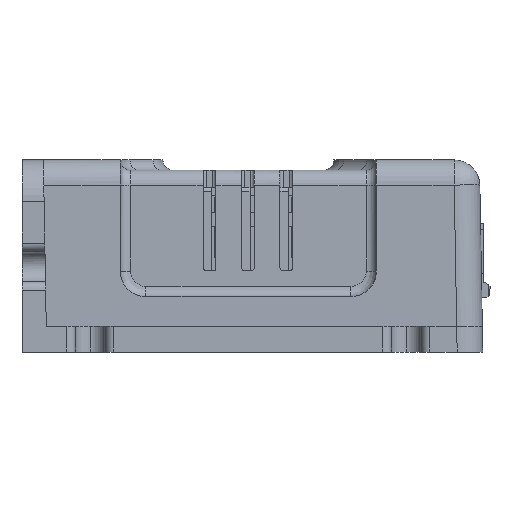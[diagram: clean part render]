
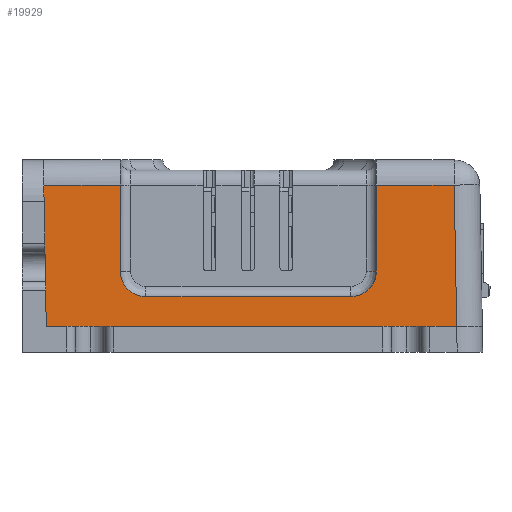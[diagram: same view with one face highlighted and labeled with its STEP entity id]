
A CAD part, left-side view. The second image highlights one B-rep face of the part: STEP entity #19929.
In plain terms, the highlighted planar face has unit normal (-1, 0, 0.018).
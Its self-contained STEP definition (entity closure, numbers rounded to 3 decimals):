
#284 = ORIENTED_EDGE ( 'NONE', *, *, #66185, .F. ) ;
#701 = ORIENTED_EDGE ( 'NONE', *, *, #20646, .F. ) ;
#1108 = CARTESIAN_POINT ( 'NONE',  ( -206.145, -10.489, 3.379 ) ) ;
#1318 = EDGE_CURVE ( 'NONE', #23201, #55954, #53506, .T. ) ;
#2204 = ORIENTED_EDGE ( 'NONE', *, *, #1318, .T. ) ;
#2633 = VECTOR ( 'NONE', #47959, 1000. ) ;
#2653 = LINE ( 'NONE', #34172, #17158 ) ;
#3692 = ORIENTED_EDGE ( 'NONE', *, *, #50390, .T. ) ;
#6641 = CARTESIAN_POINT ( 'NONE',  ( -206.152, -11.607, 3. ) ) ;
#6751 = LINE ( 'NONE', #24592, #48463 ) ;
#8805 = DIRECTION ( 'NONE',  ( -0.017, -0.017, -1. ) ) ;
#9026 = VERTEX_POINT ( 'NONE', #37725 ) ;
#9048 = CARTESIAN_POINT ( 'NONE',  ( -206.213, 0., -0.5 ) ) ;
#9690 = VERTEX_POINT ( 'NONE', #12531 ) ;
#9851 = CARTESIAN_POINT ( 'NONE',  ( -205.924, -25.7, 16.052 ) ) ;
#9995 = VECTOR ( 'NONE', #8805, 1000. ) ;
#10367 = CARTESIAN_POINT ( 'NONE',  ( -205.924, -25.7, 16.052 ) ) ;
#11389 = CARTESIAN_POINT ( 'NONE',  ( -205.924, -0.051, 16.052 ) ) ;
#11480 = LINE ( 'NONE', #10367, #38743 ) ;
#11560 = ORIENTED_EDGE ( 'NONE', *, *, #41132, .F. ) ;
#11878 = CARTESIAN_POINT ( 'NONE',  ( -206.107, -9., 5.607 ) ) ;
#12531 = CARTESIAN_POINT ( 'NONE',  ( -205.924, -9., 16.052 ) ) ;
#13424 = CARTESIAN_POINT ( 'NONE',  ( -206.151, -36.785, 3.078 ) ) ;
#15597 = CARTESIAN_POINT ( 'NONE',  ( -206.213, -25.7, -0.5 ) ) ;
#15839 = DIRECTION ( 'NONE',  ( 0., -1., 0. ) ) ;
#16399 = ORIENTED_EDGE ( 'NONE', *, *, #49588, .F. ) ;
#16448 = DIRECTION ( 'NONE',  ( 0.017, 0., 1. ) ) ;
#17158 = VECTOR ( 'NONE', #61410, 1000. ) ;
#18886 = CARTESIAN_POINT ( 'NONE',  ( -206.142, -37.844, 3.601 ) ) ;
#18983 = CARTESIAN_POINT ( 'NONE',  ( -206.213, -0.34, -0.5 ) ) ;
#19929 = ADVANCED_FACE ( 'NONE', ( #27631 ), #59227, .F. ) ;
#19953 = EDGE_CURVE ( 'NONE', #63760, #26962, #11480, .T. ) ;
#20646 = EDGE_CURVE ( 'NONE', #22459, #63760, #54999, .T. ) ;
#22136 = CARTESIAN_POINT ( 'NONE',  ( -205.924, -39., 16.052 ) ) ;
#22459 = VERTEX_POINT ( 'NONE', #63964 ) ;
#23201 = VERTEX_POINT ( 'NONE', #11389 ) ;
#24104 = EDGE_CURVE ( 'NONE', #9690, #25331, #6751, .T. ) ;
#24368 = CARTESIAN_POINT ( 'NONE',  ( -206.126, -38.621, 4.489 ) ) ;
#24592 = CARTESIAN_POINT ( 'NONE',  ( -206.213, -9., -0.5 ) ) ;
#25331 = VERTEX_POINT ( 'NONE', #27522 ) ;
#25463 = VECTOR ( 'NONE', #37331, 1000. ) ;
#26533 = DIRECTION ( 'NONE',  ( 1., 0., -0.017 ) ) ;
#26962 = VERTEX_POINT ( 'NONE', #31351 ) ;
#27522 = CARTESIAN_POINT ( 'NONE',  ( -206.1, -9., 6. ) ) ;
#27631 = FACE_OUTER_BOUND ( 'NONE', #57505, .T. ) ;
#27653 = ORIENTED_EDGE ( 'NONE', *, *, #34027, .F. ) ;
#28244 = CARTESIAN_POINT ( 'NONE',  ( -206.126, -9.378, 4.49 ) ) ;
#29784 = CARTESIAN_POINT ( 'NONE',  ( -206.107, -39., 5.607 ) ) ;
#29860 = LINE ( 'NONE', #9851, #2633 ) ;
#29997 = VERTEX_POINT ( 'NONE', #40460 ) ;
#31351 = CARTESIAN_POINT ( 'NONE',  ( -205.924, -48.112, 16.052 ) ) ;
#32796 = CARTESIAN_POINT ( 'NONE',  ( -206.147, -36., 3. ) ) ;
#33746 = CARTESIAN_POINT ( 'NONE',  ( -206.142, -10.156, 3.601 ) ) ;
#34027 = EDGE_CURVE ( 'NONE', #23201, #9690, #29860, .T. ) ;
#34172 = CARTESIAN_POINT ( 'NONE',  ( -206.152, -12., 3. ) ) ;
#35181 = EDGE_CURVE ( 'NONE', #26962, #29997, #54522, .T. ) ;
#35341 = AXIS2_PLACEMENT_3D ( 'NONE', #15597, #26533, #64759 ) ;
#37331 = DIRECTION ( 'NONE',  ( -0.017, -0.017, -1. ) ) ;
#37725 = CARTESIAN_POINT ( 'NONE',  ( -206.147, -12., 3. ) ) ;
#38743 = VECTOR ( 'NONE', #15839, 1000. ) ;
#38753 = VECTOR ( 'NONE', #16448, 1000. ) ;
#39239 = CARTESIAN_POINT ( 'NONE',  ( -206.151, -11.215, 3.078 ) ) ;
#40060 = B_SPLINE_CURVE_WITH_KNOTS ( 'NONE', 3,
 ( #40320, #62084, #13424, #51555, #18886, #57062, #24368, #62550, #29784, #68051 ),
 .UNSPECIFIED., .F., .F.,
 ( 4, 2, 2, 2, 4 ),
 ( 0., 0.001, 0.002, 0.004, 0.005 ),
 .UNSPECIFIED. ) ;
#40320 = CARTESIAN_POINT ( 'NONE',  ( -206.147, -36., 3. ) ) ;
#40460 = CARTESIAN_POINT ( 'NONE',  ( -206.213, -48.4, -0.5 ) ) ;
#41008 = DIRECTION ( 'NONE',  ( -0.017, 0., -1. ) ) ;
#41132 = EDGE_CURVE ( 'NONE', #45707, #22459, #40060, .T. ) ;
#44711 = CARTESIAN_POINT ( 'NONE',  ( -206.147, -12., 3. ) ) ;
#45707 = VERTEX_POINT ( 'NONE', #32796 ) ;
#47146 = DIRECTION ( 'NONE',  ( 0., -1., 0. ) ) ;
#47959 = DIRECTION ( 'NONE',  ( 0., -1., 0. ) ) ;
#48463 = VECTOR ( 'NONE', #41008, 1000. ) ;
#49588 = EDGE_CURVE ( 'NONE', #9026, #45707, #2653, .T. ) ;
#49872 = ORIENTED_EDGE ( 'NONE', *, *, #35181, .F. ) ;
#50390 = EDGE_CURVE ( 'NONE', #55954, #29997, #65725, .T. ) ;
#51555 = CARTESIAN_POINT ( 'NONE',  ( -206.145, -37.511, 3.379 ) ) ;
#52892 = VECTOR ( 'NONE', #47146, 1000. ) ;
#53506 = LINE ( 'NONE', #68462, #9995 ) ;
#53820 = CARTESIAN_POINT ( 'NONE',  ( -205.924, -48.112, 16.052 ) ) ;
#54522 = LINE ( 'NONE', #53820, #25463 ) ;
#54999 = LINE ( 'NONE', #65375, #38753 ) ;
#55491 = CARTESIAN_POINT ( 'NONE',  ( -206.1, -9., 6. ) ) ;
#55954 = VERTEX_POINT ( 'NONE', #18983 ) ;
#57062 = CARTESIAN_POINT ( 'NONE',  ( -206.132, -38.399, 4.156 ) ) ;
#57505 = EDGE_LOOP ( 'NONE', ( #16399, #284, #70200, #27653, #2204, #3692, #49872, #58717, #701, #11560 ) ) ;
#58717 = ORIENTED_EDGE ( 'NONE', *, *, #19953, .F. ) ;
#59227 = PLANE ( 'NONE',  #35341 ) ;
#60982 = CARTESIAN_POINT ( 'NONE',  ( -206.113, -9.078, 5.215 ) ) ;
#61028 = B_SPLINE_CURVE_WITH_KNOTS ( 'NONE', 3,
 ( #55491, #11878, #60982, #28244, #66501, #33746, #1108, #39239, #6641, #44711 ),
 .UNSPECIFIED., .F., .F.,
 ( 4, 2, 2, 2, 4 ),
 ( 0., 0.001, 0.002, 0.004, 0.005 ),
 .UNSPECIFIED. ) ;
#61410 = DIRECTION ( 'NONE',  ( 0., -1., 0. ) ) ;
#62084 = CARTESIAN_POINT ( 'NONE',  ( -206.152, -36.393, 3. ) ) ;
#62550 = CARTESIAN_POINT ( 'NONE',  ( -206.113, -38.922, 5.215 ) ) ;
#63760 = VERTEX_POINT ( 'NONE', #22136 ) ;
#63964 = CARTESIAN_POINT ( 'NONE',  ( -206.1, -39., 6. ) ) ;
#64759 = DIRECTION ( 'NONE',  ( -0.017, 0., -1. ) ) ;
#65375 = CARTESIAN_POINT ( 'NONE',  ( -206.213, -39., -0.5 ) ) ;
#65725 = LINE ( 'NONE', #9048, #52892 ) ;
#66185 = EDGE_CURVE ( 'NONE', #25331, #9026, #61028, .T. ) ;
#66501 = CARTESIAN_POINT ( 'NONE',  ( -206.132, -9.601, 4.157 ) ) ;
#68051 = CARTESIAN_POINT ( 'NONE',  ( -206.1, -39., 6. ) ) ;
#68462 = CARTESIAN_POINT ( 'NONE',  ( -205.924, -0.051, 16.052 ) ) ;
#70200 = ORIENTED_EDGE ( 'NONE', *, *, #24104, .F. ) ;
